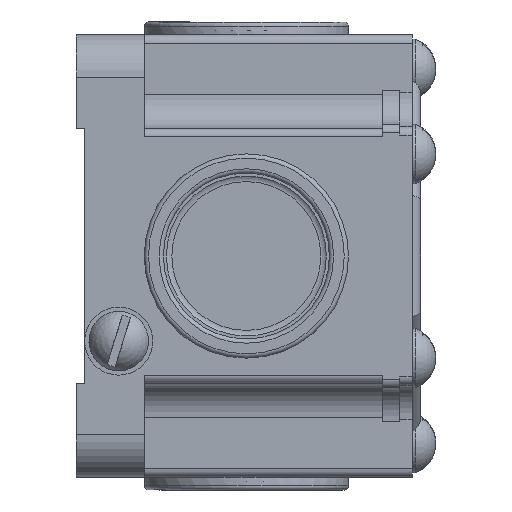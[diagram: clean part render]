
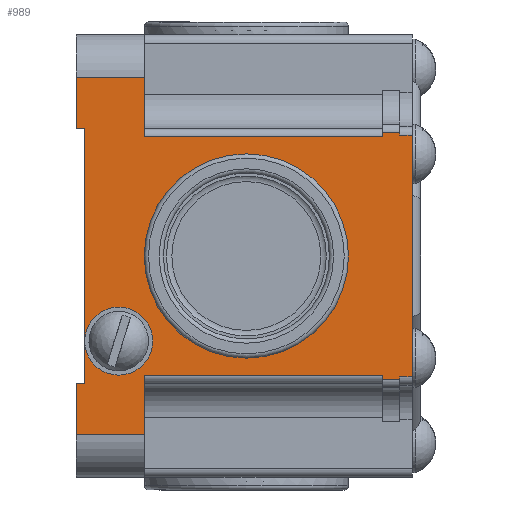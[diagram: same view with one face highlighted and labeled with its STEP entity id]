
A CAD part, front view. The second image highlights one B-rep face of the part: STEP entity #989.
In plain terms, the highlighted planar face has unit normal (0, -1, 0).
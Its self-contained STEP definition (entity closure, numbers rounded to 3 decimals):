
#989=ADVANCED_FACE('',(#3982,#3984),#3986,.T.);
#3982=FACE_BOUND('',#3983,.T.);
#3983=EDGE_LOOP('',(#6220,#6221,#6222,#6223,#6224,#6225,#6226,#6227,#6228,#6229,
#6230,#6231,#6232,#6233,#6234,#6235,#6236,#6237,#6238,#6239,#6240,#6241,#6242));
#3984=FACE_BOUND('',#3985,.T.);
#3985=EDGE_LOOP('',(#6243));
#3986=PLANE('',#3987);
#3987=AXIS2_PLACEMENT_3D('',#3988,#3989,#3990);
#3988=CARTESIAN_POINT('',(0.,-53.5,26.));
#3989=DIRECTION('',(0.,-1.,-0.));
#3990=DIRECTION('',(0.,0.,-1.));
#6220=ORIENTED_EDGE('',*,*,#7511,.F.);
#6221=ORIENTED_EDGE('',*,*,#7512,.F.);
#6222=ORIENTED_EDGE('',*,*,#7393,.T.);
#6223=ORIENTED_EDGE('',*,*,#7509,.T.);
#6224=ORIENTED_EDGE('',*,*,#7513,.T.);
#6225=ORIENTED_EDGE('',*,*,#7514,.T.);
#6226=ORIENTED_EDGE('',*,*,#7515,.T.);
#6227=ORIENTED_EDGE('',*,*,#7516,.T.);
#6228=ORIENTED_EDGE('',*,*,#7517,.T.);
#6229=ORIENTED_EDGE('',*,*,#7518,.T.);
#6230=ORIENTED_EDGE('',*,*,#7519,.F.);
#6231=ORIENTED_EDGE('',*,*,#7520,.T.);
#6232=ORIENTED_EDGE('',*,*,#7521,.F.);
#6233=ORIENTED_EDGE('',*,*,#7522,.F.);
#6234=ORIENTED_EDGE('',*,*,#7523,.F.);
#6235=ORIENTED_EDGE('',*,*,#7524,.F.);
#6236=ORIENTED_EDGE('',*,*,#7525,.T.);
#6237=ORIENTED_EDGE('',*,*,#7526,.T.);
#6238=ORIENTED_EDGE('',*,*,#7527,.T.);
#6239=ORIENTED_EDGE('',*,*,#7528,.T.);
#6240=ORIENTED_EDGE('',*,*,#7529,.T.);
#6241=ORIENTED_EDGE('',*,*,#7530,.T.);
#6242=ORIENTED_EDGE('',*,*,#7394,.T.);
#6243=ORIENTED_EDGE('',*,*,#7531,.F.);
#7393=EDGE_CURVE('',#8292,#8290,#8293,.T.);
#7394=EDGE_CURVE('',#8294,#8292,#8295,.T.);
#7509=EDGE_CURVE('',#8290,#8490,#8491,.F.);
#7511=EDGE_CURVE('',#8493,#8292,#8494,.T.);
#7512=EDGE_CURVE('',#8292,#8493,#8495,.T.);
#7513=EDGE_CURVE('',#8490,#8496,#8497,.T.);
#7514=EDGE_CURVE('',#8496,#8498,#8499,.T.);
#7515=EDGE_CURVE('',#8498,#8500,#8501,.T.);
#7516=EDGE_CURVE('',#8500,#8502,#8503,.F.);
#7517=EDGE_CURVE('',#8502,#8504,#8505,.T.);
#7518=EDGE_CURVE('',#8504,#8506,#8507,.T.);
#7519=EDGE_CURVE('',#8508,#8506,#8509,.T.);
#7520=EDGE_CURVE('',#8508,#8510,#8511,.T.);
#7521=EDGE_CURVE('',#8512,#8510,#8513,.T.);
#7522=EDGE_CURVE('',#8514,#8512,#8515,.T.);
#7523=EDGE_CURVE('',#8516,#8514,#8517,.T.);
#7524=EDGE_CURVE('',#8518,#8516,#8519,.T.);
#7525=EDGE_CURVE('',#8518,#8520,#8521,.T.);
#7526=EDGE_CURVE('',#8520,#8522,#8523,.F.);
#7527=EDGE_CURVE('',#8522,#8524,#8525,.T.);
#7528=EDGE_CURVE('',#8524,#8526,#8527,.F.);
#7529=EDGE_CURVE('',#8526,#8528,#8529,.T.);
#7530=EDGE_CURVE('',#8528,#8294,#8530,.F.);
#7531=EDGE_CURVE('',#8531,#8531,#8532,.F.);
#8290=VERTEX_POINT('',#11156);
#8292=VERTEX_POINT('',#11160);
#8293=LINE('',#11161,#11162);
#8294=VERTEX_POINT('',#11164);
#8295=LINE('',#11165,#11166);
#8490=VERTEX_POINT('',#11652);
#8491=LINE('',#11653,#11654);
#8493=VERTEX_POINT('',#11659);
#8494=CIRCLE('',#11660,4.);
#8495=CIRCLE('',#11664,4.);
#8496=VERTEX_POINT('',#11668);
#8497=LINE('',#11669,#11670);
#8498=VERTEX_POINT('',#11672);
#8499=LINE('',#11673,#11674);
#8500=VERTEX_POINT('',#11676);
#8501=LINE('',#11677,#11678);
#8502=VERTEX_POINT('',#11680);
#8503=LINE('',#11681,#11682);
#8504=VERTEX_POINT('',#11684);
#8505=LINE('',#11685,#11686);
#8506=VERTEX_POINT('',#11688);
#8507=LINE('',#11689,#11690);
#8508=VERTEX_POINT('',#11692);
#8509=LINE('',#11693,#11694);
#8510=VERTEX_POINT('',#11696);
#8511=LINE('',#11697,#11698);
#8512=VERTEX_POINT('',#11700);
#8513=LINE('',#11701,#11702);
#8514=VERTEX_POINT('',#11704);
#8515=LINE('',#11705,#11706);
#8516=VERTEX_POINT('',#11708);
#8517=LINE('',#11709,#11710);
#8518=VERTEX_POINT('',#11712);
#8519=LINE('',#11713,#11714);
#8520=VERTEX_POINT('',#11716);
#8521=LINE('',#11717,#11718);
#8522=VERTEX_POINT('',#11720);
#8523=LINE('',#11721,#11722);
#8524=VERTEX_POINT('',#11724);
#8525=LINE('',#11725,#11726);
#8526=VERTEX_POINT('',#11728);
#8527=LINE('',#11729,#11730);
#8528=VERTEX_POINT('',#11732);
#8529=LINE('',#11733,#11734);
#8530=LINE('',#11736,#11737);
#8531=VERTEX_POINT('',#11739);
#8532=CIRCLE('',#11740,12.);
#11156=CARTESIAN_POINT('',(1.,-53.5,-15.));
#11160=CARTESIAN_POINT('',(1.,-53.5,-10.));
#11161=CARTESIAN_POINT('',(1.,-53.5,-10.));
#11162=VECTOR('',#11163,1.);
#11163=DIRECTION('',(0.,0.,-1.));
#11164=CARTESIAN_POINT('',(1.,-53.5,15.));
#11165=CARTESIAN_POINT('',(1.,-53.5,15.));
#11166=VECTOR('',#11167,1.);
#11167=DIRECTION('',(0.,0.,-1.));
#11652=CARTESIAN_POINT('',(0.,-53.5,-15.));
#11653=CARTESIAN_POINT('',(0.,-53.5,-15.));
#11654=VECTOR('',#11655,1.);
#11655=DIRECTION('',(1.,0.,0.));
#11659=CARTESIAN_POINT('',(5.,-53.5,-14.));
#11660=AXIS2_PLACEMENT_3D('',#11661,#11662,#11663);
#11661=CARTESIAN_POINT('',(5.,-53.5,-10.));
#11662=DIRECTION('',(0.,-1.,0.));
#11663=DIRECTION('',(0.,0.,-1.));
#11664=AXIS2_PLACEMENT_3D('',#11665,#11666,#11667);
#11665=CARTESIAN_POINT('',(5.,-53.5,-10.));
#11666=DIRECTION('',(0.,-1.,0.));
#11667=DIRECTION('',(-1.,0.,0.));
#11668=CARTESIAN_POINT('',(0.,-53.5,-21.));
#11669=CARTESIAN_POINT('',(0.,-53.5,-15.));
#11670=VECTOR('',#11671,1.);
#11671=DIRECTION('',(0.,0.,-1.));
#11672=CARTESIAN_POINT('',(8.,-53.5,-21.));
#11673=CARTESIAN_POINT('',(0.,-53.5,-21.));
#11674=VECTOR('',#11675,1.);
#11675=DIRECTION('',(1.,0.,0.));
#11676=CARTESIAN_POINT('',(8.,-53.5,-14.));
#11677=CARTESIAN_POINT('',(8.,-53.5,-21.));
#11678=VECTOR('',#11679,1.);
#11679=DIRECTION('',(0.,0.,1.));
#11680=CARTESIAN_POINT('',(36.,-53.5,-14.));
#11681=CARTESIAN_POINT('',(36.,-53.5,-14.));
#11682=VECTOR('',#11683,1.);
#11683=DIRECTION('',(-1.,0.,0.));
#11684=CARTESIAN_POINT('',(36.,-53.5,-14.5));
#11685=CARTESIAN_POINT('',(36.,-53.5,-14.));
#11686=VECTOR('',#11687,1.);
#11687=DIRECTION('',(0.,0.,-1.));
#11688=CARTESIAN_POINT('',(38.,-53.5,-14.5));
#11689=CARTESIAN_POINT('',(36.,-53.5,-14.5));
#11690=VECTOR('',#11691,1.);
#11691=DIRECTION('',(1.,0.,0.));
#11692=CARTESIAN_POINT('',(38.,-53.5,-14.2));
#11693=CARTESIAN_POINT('',(38.,-53.5,-14.2));
#11694=VECTOR('',#11695,1.);
#11695=DIRECTION('',(0.,0.,-1.));
#11696=CARTESIAN_POINT('',(39.5,-53.5,-14.2));
#11697=CARTESIAN_POINT('',(38.,-53.5,-14.2));
#11698=VECTOR('',#11699,1.);
#11699=DIRECTION('',(1.,0.,0.));
#11700=CARTESIAN_POINT('',(39.5,-53.5,14.2));
#11701=CARTESIAN_POINT('',(39.5,-53.5,14.2));
#11702=VECTOR('',#11703,1.);
#11703=DIRECTION('',(0.,0.,-1.));
#11704=CARTESIAN_POINT('',(38.,-53.5,14.2));
#11705=CARTESIAN_POINT('',(38.,-53.5,14.2));
#11706=VECTOR('',#11707,1.);
#11707=DIRECTION('',(1.,0.,0.));
#11708=CARTESIAN_POINT('',(38.,-53.5,14.5));
#11709=CARTESIAN_POINT('',(38.,-53.5,14.5));
#11710=VECTOR('',#11711,1.);
#11711=DIRECTION('',(0.,0.,-1.));
#11712=CARTESIAN_POINT('',(36.,-53.5,14.5));
#11713=CARTESIAN_POINT('',(36.,-53.5,14.5));
#11714=VECTOR('',#11715,1.);
#11715=DIRECTION('',(1.,0.,0.));
#11716=CARTESIAN_POINT('',(36.,-53.5,14.));
#11717=CARTESIAN_POINT('',(36.,-53.5,14.5));
#11718=VECTOR('',#11719,1.);
#11719=DIRECTION('',(0.,0.,-1.));
#11720=CARTESIAN_POINT('',(8.,-53.5,14.));
#11721=CARTESIAN_POINT('',(8.,-53.5,14.));
#11722=VECTOR('',#11723,1.);
#11723=DIRECTION('',(1.,0.,0.));
#11724=CARTESIAN_POINT('',(8.,-53.5,21.));
#11725=CARTESIAN_POINT('',(8.,-53.5,14.));
#11726=VECTOR('',#11727,1.);
#11727=DIRECTION('',(0.,0.,1.));
#11728=CARTESIAN_POINT('',(0.,-53.5,21.));
#11729=CARTESIAN_POINT('',(0.,-53.5,21.));
#11730=VECTOR('',#11731,1.);
#11731=DIRECTION('',(1.,0.,0.));
#11732=CARTESIAN_POINT('',(0.,-53.5,15.));
#11733=CARTESIAN_POINT('',(0.,-53.5,21.));
#11734=VECTOR('',#11735,1.);
#11735=DIRECTION('',(0.,0.,-1.));
#11736=CARTESIAN_POINT('',(1.,-53.5,15.));
#11737=VECTOR('',#11738,1.);
#11738=DIRECTION('',(-1.,0.,0.));
#11739=CARTESIAN_POINT('',(20.,-53.5,12.));
#11740=AXIS2_PLACEMENT_3D('',#11741,#11742,#11743);
#11741=CARTESIAN_POINT('',(20.,-53.5,0.));
#11742=DIRECTION('',(-0.,1.,0.));
#11743=DIRECTION('',(0.,0.,1.));
